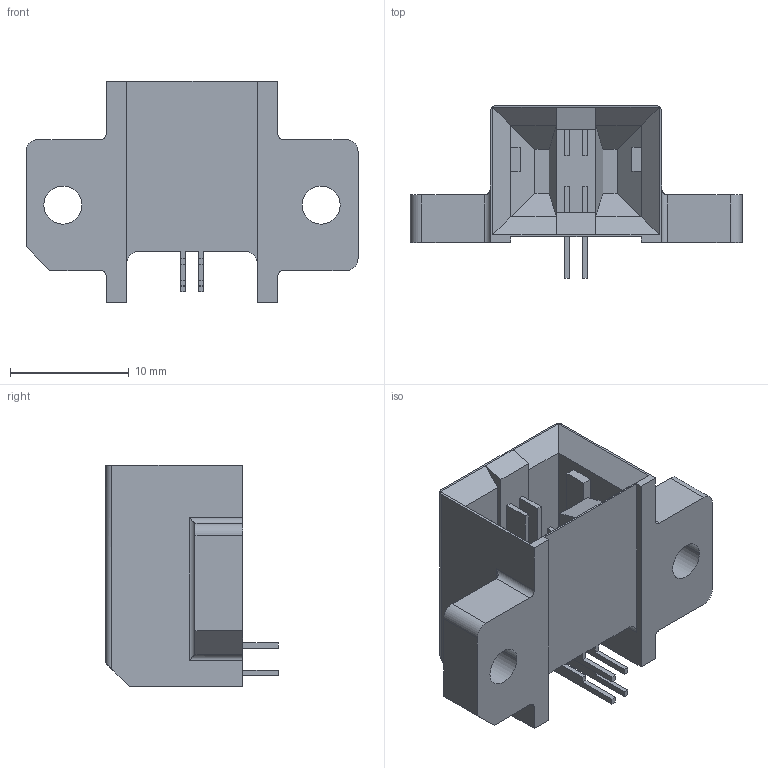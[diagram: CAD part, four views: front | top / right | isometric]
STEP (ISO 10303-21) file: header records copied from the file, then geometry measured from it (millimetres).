
FILE_DESCRIPTION(('Creo Elements/Direct Modeling STEP Export'),'2;1');
FILE_NAME('P3E772_FAS11-004L.stp','2024-04-16T15:11:02',(''),(''),'Creo Elements/Direct Modeling STEP processor for AP214 (Solid Model)','Creo Elements/Direct Modeling 20.6 25-Mar-2023 (C) Parametric Technology GmbH','');
FILE_SCHEMA(('AUTOMOTIVE_DESIGN { 1 0 10303 214 1 1 1 1 }'));
Length unit declared in the file: millimetre
Products named in the file (2): FAS11-004L
Assembly tree (1 placements, depth 2):
  FAS11-004L
    FAS11-004L
Bounding box: 27.9 x 14.5 x 18.6 mm (x, y, z)
Volume: 2000.2 mm3; surface area: 2467.8 mm2
Topology: 1 solids, 1 shells, 129 faces, 348 edges, 224 vertices
Faces by surface type: plane 112, cylinder 17
Entity records: 3917 total; most frequent: ORIENTED_EDGE 696, CARTESIAN_POINT 682, DIRECTION 607, EDGE_CURVE 348, VECTOR 309, LINE 309, VERTEX_POINT 224, AXIS2_PLACEMENT_3D 149
